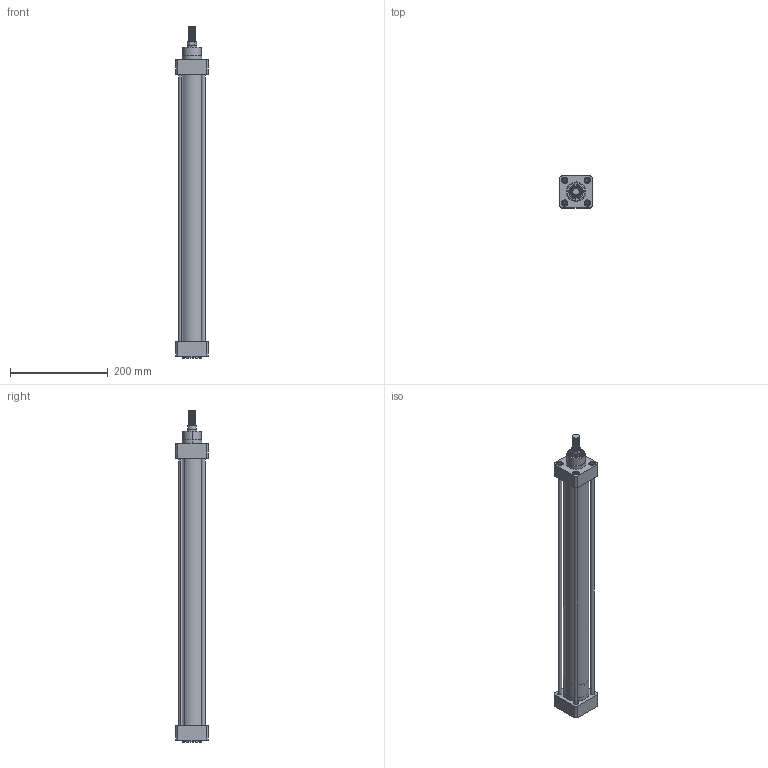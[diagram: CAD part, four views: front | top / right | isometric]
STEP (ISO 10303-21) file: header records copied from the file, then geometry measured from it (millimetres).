
FILE_DESCRIPTION (( 'STEP AP203' ), '1' );
FILE_NAME ('XJSS50.0500.STEP', '2005-11-30T16:19:32', ( 'Vesta Automation srl' ), ( 'Vesta Automation srl' ), 'SwSTEP 2.0', 'SolidWorks 2005187', '' );
FILE_SCHEMA (( 'CONFIG_CONTROL_DESIGN' ));
Length unit declared in the file: millimetre
Products named in the file (6): TIE ROD-XJSS50_STROKE 0500; XJSS50.0500; FRONT END CAP-XJSS50; REAR END CAP-XJSS50; BARREL-XJSS50_STROKE 0500; PISTON ROD-XJSS50_STROKE 0500
Assembly tree (8 placements, depth 2):
  XJSS50.0500
    TIE ROD-XJSS50_STROKE 0500  x4
    FRONT END CAP-XJSS50
    BARREL-XJSS50_STROKE 0500
    REAR END CAP-XJSS50
    PISTON ROD-XJSS50_STROKE 0500
Bounding box: 66 x 66 x 679 mm (x, y, z)
Volume: 730515 mm3; surface area: 350857.9 mm2
Topology: 8 solids, 9 shells, 952 faces, 2016 edges, 1167 vertices
Faces by surface type: cone 546, plane 234, cylinder 164, torus 8
Entity records: 25824 total; most frequent: DIRECTION 4742, CARTESIAN_POINT 4486, ORIENTED_EDGE 3960, EDGE_CURVE 1980, AXIS2_PLACEMENT_3D 1913, VERTEX_POINT 1155, EDGE_LOOP 1051, CIRCLE 962
